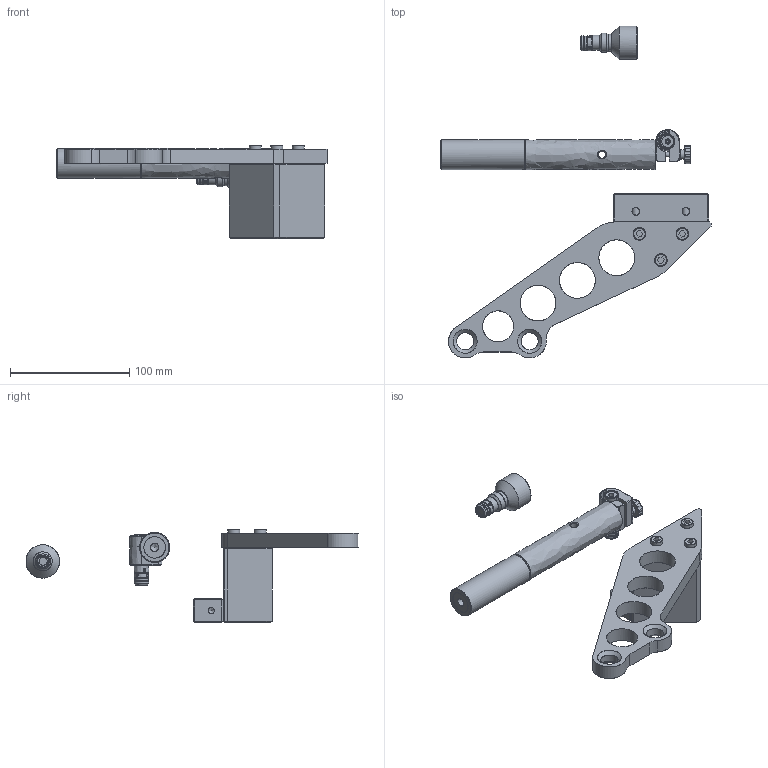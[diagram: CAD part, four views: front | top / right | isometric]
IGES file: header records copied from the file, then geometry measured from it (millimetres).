
Global section: file name: Y:\_LCPD Drawings\13.1 Lightweight Models\8014\LA-8014-0551 LATHE ADAPTOR KIT\LA-8014-0551 LATHE ADAPTOR KITt.igs; native system: NX V7.5; preprocessor: SIEMENS PLM Software NX 7.5; date: 20120103.092514; units: millimetre
Bounding box: 226.31 x 278.25 x 78 mm (x, y, z)
Surface area: 76989.6 mm2 (no closed solid volume)
Topology: 0 solids, 0 shells, 754 faces, 5176 edges, 5024 vertices
Faces by surface type: bspline 754
